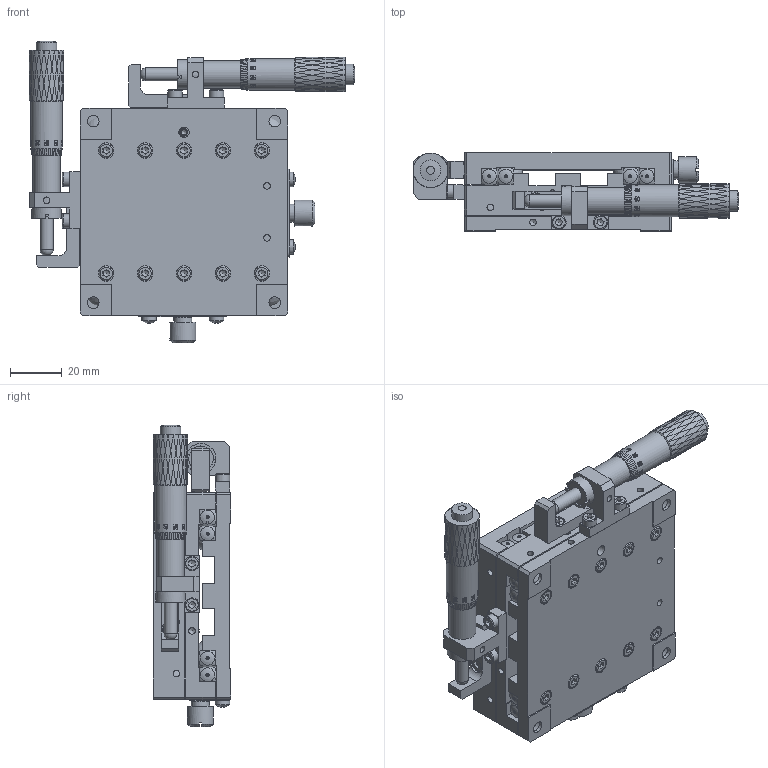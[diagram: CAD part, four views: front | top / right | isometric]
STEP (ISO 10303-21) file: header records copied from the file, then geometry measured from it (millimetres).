
FILE_DESCRIPTION (( 'STEP AP203' ), '1' );
FILE_NAME ('BPMB80.STEP', '2024-07-25T09:04:27', ( 'Windows User' ), ( 'P R C' ), 'SwSTEP 2.0', 'SolidWorks 2024', '' );
FILE_SCHEMA (( 'CONFIG_CONTROL_DESIGN' ));
Length unit declared in the file: millimetre
Products named in the file (1): BPMB80
Bounding box: 125.45 x 30 x 116.33 mm (x, y, z)
Volume: 156577.8 mm3; surface area: 113065.1 mm2
Topology: 57 solids, 57 shells, 3242 faces, 8117 edges, 5217 vertices
Faces by surface type: bspline 1124, plane 1014, cylinder 666, cone 386, torus 46, sphere 6
Full cylindrical faces by diameter (mm): 2.05 x26, 2.5 x42, 2.55 x40, 2.95 x18, 3 x32, 3.1 x4, 3.2 x4, 3.3 x13, 3.4 x24, 4 x1, 4.4 x40, 4.5 x4, 5 x4, 5.5 x28, 5.6 x4, 5.8 x4, 6 x20, 7 x2, 8 x8, 8.1 x2, 9 x2, 9.5 x4, 10 x2, 10.373 x2, 11.5 x2, 12.25 x2, 13.3 x2
Entity records: 176930 total; most frequent: CARTESIAN_POINT 113690, ORIENTED_EDGE 14664, DIRECTION 8742, EDGE_CURVE 7332, VERTEX_POINT 5006, EDGE_LOOP 4304, B_SPLINE_CURVE_WITH_KNOTS 3734, FACE_OUTER_BOUND 3580
